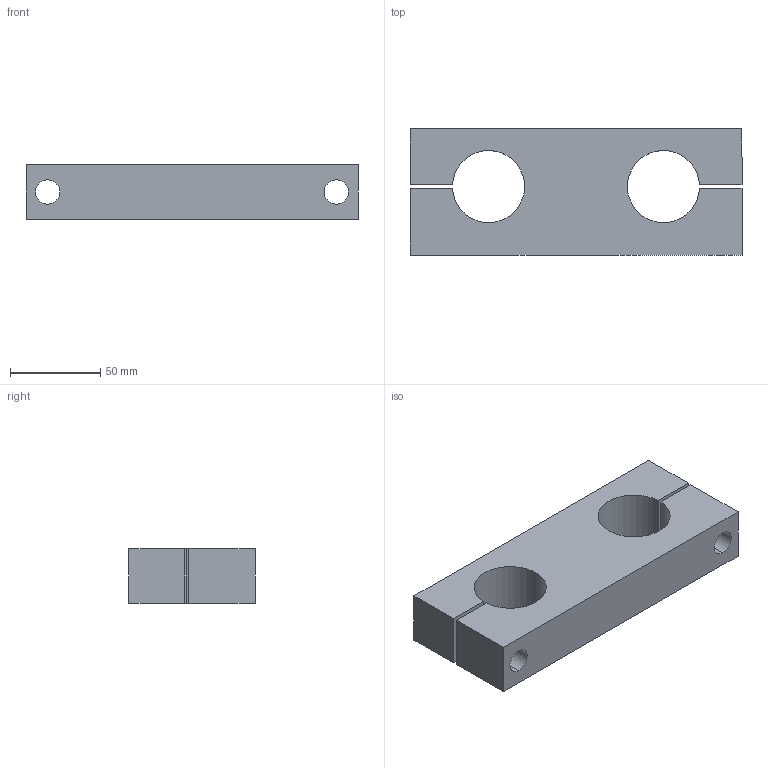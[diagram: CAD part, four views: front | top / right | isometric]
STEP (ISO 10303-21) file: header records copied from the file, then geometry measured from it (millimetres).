
FILE_DESCRIPTION (( 'STEP AP214' ), '1' );
FILE_NAME ('KTAC-40.step', '2020-03-04T13:12:45', ( '' ), ( '' ), 'SwSTEP 2.0', 'SolidWorks 2019', '' );
FILE_SCHEMA (( 'AUTOMOTIVE_DESIGN' ));
Length unit declared in the file: millimetre
Products named in the file (1): KTAC-40
Bounding box: 184 x 70 x 30 mm (x, y, z)
Volume: 283055.5 mm3; surface area: 51158.2 mm2
Topology: 1 solids, 1 shells, 35 faces, 89 edges, 57 vertices
Faces by surface type: cylinder 17, plane 14, cone 4
Entity records: 1103 total; most frequent: DIRECTION 195, CARTESIAN_POINT 180, ORIENTED_EDGE 174, EDGE_CURVE 87, AXIS2_PLACEMENT_3D 72, VERTEX_POINT 57, VECTOR 51, LINE 51
